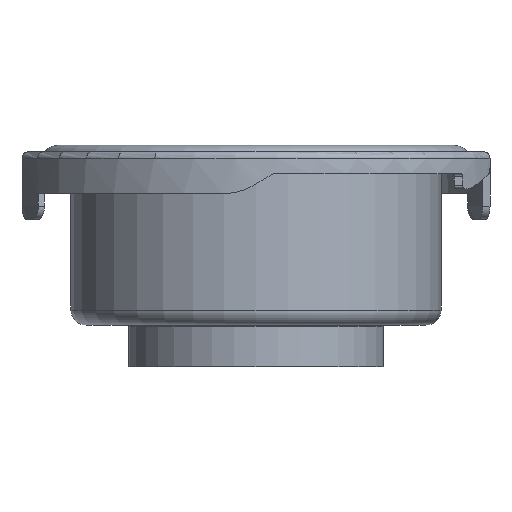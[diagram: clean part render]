
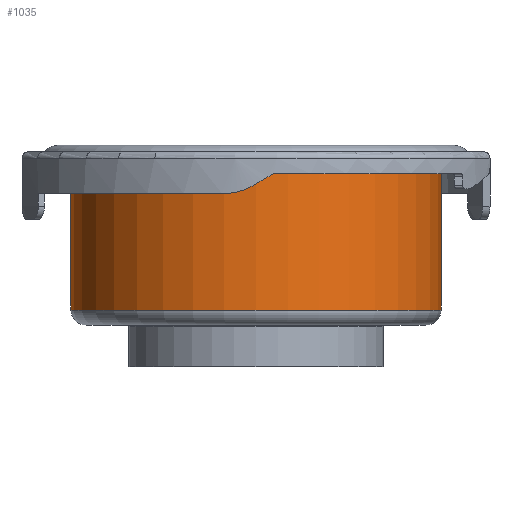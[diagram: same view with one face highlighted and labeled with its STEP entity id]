
A CAD part, left-side view. The second image highlights one B-rep face of the part: STEP entity #1035.
In plain terms, the highlighted cylindrical face has radius 21.483 mm (diameter 42.966 mm), a full revolution.
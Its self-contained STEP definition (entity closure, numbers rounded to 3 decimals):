
#97=CIRCLE('',#1146,21.483);
#98=CIRCLE('',#1148,21.483);
#160=FACE_OUTER_BOUND('',#221,.T.);
#221=EDGE_LOOP('',(#924,#925,#926,#927));
#292=LINE('',#2179,#352);
#352=VECTOR('',#1406,21.483);
#487=VERTEX_POINT('',#2174);
#488=VERTEX_POINT('',#2178);
#634=EDGE_CURVE('',#487,#487,#97,.T.);
#635=EDGE_CURVE('',#487,#488,#292,.T.);
#636=EDGE_CURVE('',#488,#488,#98,.T.);
#924=ORIENTED_EDGE('',*,*,#634,.F.);
#925=ORIENTED_EDGE('',*,*,#635,.T.);
#926=ORIENTED_EDGE('',*,*,#636,.T.);
#927=ORIENTED_EDGE('',*,*,#635,.F.);
#984=CYLINDRICAL_SURFACE('',#1147,21.483);
#1035=ADVANCED_FACE('',(#160),#984,.T.);
#1146=AXIS2_PLACEMENT_3D('',#2176,#1402,#1403);
#1147=AXIS2_PLACEMENT_3D('',#2177,#1404,#1405);
#1148=AXIS2_PLACEMENT_3D('',#2180,#1407,#1408);
#1402=DIRECTION('center_axis',(0.,0.,-1.));
#1403=DIRECTION('ref_axis',(1.,0.,0.));
#1404=DIRECTION('center_axis',(0.,0.,-1.));
#1405=DIRECTION('ref_axis',(-1.,0.,0.));
#1406=DIRECTION('',(0.,0.,1.));
#1407=DIRECTION('center_axis',(0.,0.,-1.));
#1408=DIRECTION('ref_axis',(1.,0.,0.));
#2174=CARTESIAN_POINT('',(42.153,0.,0.937));
#2176=CARTESIAN_POINT('Origin',(20.67,0.,0.937));
#2177=CARTESIAN_POINT('Origin',(20.67,0.,8.499));
#2178=CARTESIAN_POINT('',(42.153,0.,17.81));
#2179=CARTESIAN_POINT('',(42.153,0.,8.499));
#2180=CARTESIAN_POINT('Origin',(20.67,0.,17.81));
